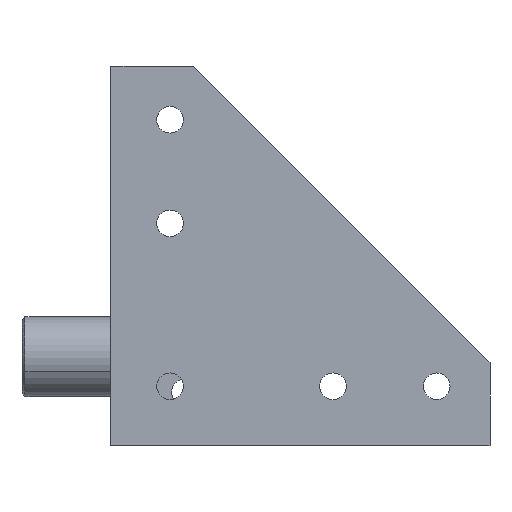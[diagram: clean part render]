
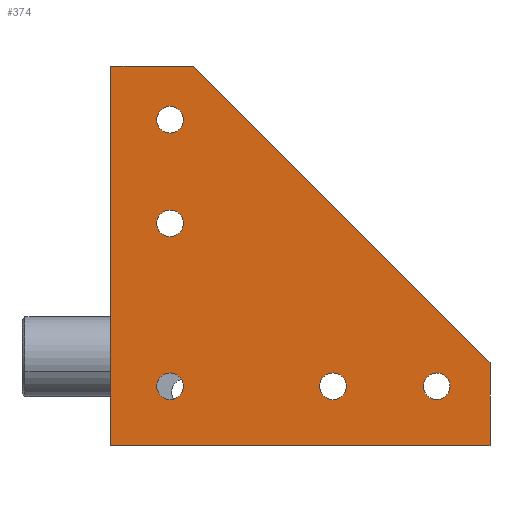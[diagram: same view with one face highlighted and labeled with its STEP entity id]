
A CAD part, front view. The second image highlights one B-rep face of the part: STEP entity #374.
In plain terms, the highlighted planar face has unit normal (0, -1, 0).
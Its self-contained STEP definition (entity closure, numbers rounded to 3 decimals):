
#14 = LINE ( 'NONE', #2659, #44 ) ;
#20 = EDGE_CURVE ( 'NONE', #58, #3057, #256, .T. ) ;
#27 = VERTEX_POINT ( 'NONE', #232 ) ;
#37 = DIRECTION ( 'NONE',  ( 1., 0., 0. ) ) ;
#38 = VERTEX_POINT ( 'NONE', #3198 ) ;
#44 = VECTOR ( 'NONE', #37, 1000. ) ;
#58 = VERTEX_POINT ( 'NONE', #525 ) ;
#165 = EDGE_LOOP ( 'NONE', ( #2107, #1984, #489, #1422, #3615 ) ) ;
#178 = DIRECTION ( 'NONE',  ( 0., 0., 1. ) ) ;
#232 = CARTESIAN_POINT ( 'NONE',  ( 28., 0., 3. ) ) ;
#256 = CIRCLE ( 'NONE', #2458, 4.5 ) ;
#269 = CARTESIAN_POINT ( 'NONE',  ( 20., 0., -100.5 ) ) ;
#274 = EDGE_CURVE ( 'NONE', #617, #27, #2464, .T. ) ;
#321 = EDGE_CURVE ( 'NONE', #2018, #3023, #1180, .T. ) ;
#324 = EDGE_LOOP ( 'NONE', ( #920, #2914 ) ) ;
#346 = CARTESIAN_POINT ( 'NONE',  ( 75., 0., -105. ) ) ;
#374 = ADVANCED_FACE ( 'NONE', ( #1014, #1896, #1608, #2875, #3784, #2829 ), #2810, .F. ) ;
#472 = CARTESIAN_POINT ( 'NONE',  ( 0., 0., -125. ) ) ;
#489 = ORIENTED_EDGE ( 'NONE', *, *, #1591, .T. ) ;
#525 = CARTESIAN_POINT ( 'NONE',  ( 20., 0., -109.5 ) ) ;
#536 = ORIENTED_EDGE ( 'NONE', *, *, #679, .T. ) ;
#537 = AXIS2_PLACEMENT_3D ( 'NONE', #1571, #1287, #2461 ) ;
#547 = CARTESIAN_POINT ( 'NONE',  ( 20., 0., -105. ) ) ;
#553 = DIRECTION ( 'NONE',  ( 0., 1., 0. ) ) ;
#577 = VERTEX_POINT ( 'NONE', #2370 ) ;
#617 = VERTEX_POINT ( 'NONE', #1892 ) ;
#646 = CARTESIAN_POINT ( 'NONE',  ( 110., 0., -109.5 ) ) ;
#679 = EDGE_CURVE ( 'NONE', #1706, #38, #1653, .T. ) ;
#695 = CARTESIAN_POINT ( 'NONE',  ( 20., 0., -50. ) ) ;
#714 = CIRCLE ( 'NONE', #1518, 4.5 ) ;
#715 = AXIS2_PLACEMENT_3D ( 'NONE', #346, #2354, #2392 ) ;
#747 = DIRECTION ( 'NONE',  ( 0., 1., 0. ) ) ;
#756 = EDGE_CURVE ( 'NONE', #3023, #2018, #2495, .T. ) ;
#777 = DIRECTION ( 'NONE',  ( 0., 0., 1. ) ) ;
#811 = AXIS2_PLACEMENT_3D ( 'NONE', #2145, #3071, #1628 ) ;
#835 = DIRECTION ( 'NONE',  ( 0., 0., -1. ) ) ;
#890 = ORIENTED_EDGE ( 'NONE', *, *, #1604, .T. ) ;
#913 = AXIS2_PLACEMENT_3D ( 'NONE', #2947, #747, #3141 ) ;
#920 = ORIENTED_EDGE ( 'NONE', *, *, #756, .T. ) ;
#928 = EDGE_LOOP ( 'NONE', ( #536, #2517 ) ) ;
#942 = CARTESIAN_POINT ( 'NONE',  ( 75., 0., -105. ) ) ;
#966 = CIRCLE ( 'NONE', #3246, 4.5 ) ;
#1014 = FACE_BOUND ( 'NONE', #3587, .T. ) ;
#1141 = DIRECTION ( 'NONE',  ( 0.707, 0., -0.707 ) ) ;
#1142 = EDGE_CURVE ( 'NONE', #1415, #2364, #3481, .T. ) ;
#1180 = CIRCLE ( 'NONE', #811, 4.5 ) ;
#1282 = CARTESIAN_POINT ( 'NONE',  ( 128., 0., -125. ) ) ;
#1287 = DIRECTION ( 'NONE',  ( 0., 1., 0. ) ) ;
#1316 = VECTOR ( 'NONE', #835, 1000. ) ;
#1415 = VERTEX_POINT ( 'NONE', #3447 ) ;
#1419 = DIRECTION ( 'NONE',  ( 0., 0., 1. ) ) ;
#1421 = DIRECTION ( 'NONE',  ( 0., 0., -1. ) ) ;
#1422 = ORIENTED_EDGE ( 'NONE', *, *, #1142, .F. ) ;
#1434 = DIRECTION ( 'NONE',  ( 0., 1., 0. ) ) ;
#1443 = VERTEX_POINT ( 'NONE', #1966 ) ;
#1493 = VECTOR ( 'NONE', #2180, 1000. ) ;
#1514 = CIRCLE ( 'NONE', #3538, 4.5 ) ;
#1518 = AXIS2_PLACEMENT_3D ( 'NONE', #1722, #553, #2886 ) ;
#1554 = CARTESIAN_POINT ( 'NONE',  ( 0., 0., 3. ) ) ;
#1571 = CARTESIAN_POINT ( 'NONE',  ( 20., 0., -15. ) ) ;
#1579 = VECTOR ( 'NONE', #1421, 1000. ) ;
#1591 = EDGE_CURVE ( 'NONE', #2360, #2364, #14, .T. ) ;
#1604 = EDGE_CURVE ( 'NONE', #577, #2792, #2540, .T. ) ;
#1608 = FACE_BOUND ( 'NONE', #324, .T. ) ;
#1628 = DIRECTION ( 'NONE',  ( 0., 0., 1. ) ) ;
#1653 = CIRCLE ( 'NONE', #3121, 4.5 ) ;
#1667 = ORIENTED_EDGE ( 'NONE', *, *, #2209, .T. ) ;
#1673 = DIRECTION ( 'NONE',  ( 0., 1., 0. ) ) ;
#1706 = VERTEX_POINT ( 'NONE', #3281 ) ;
#1722 = CARTESIAN_POINT ( 'NONE',  ( 20., 0., -50. ) ) ;
#1768 = DIRECTION ( 'NONE',  ( 0., 1., 0. ) ) ;
#1892 = CARTESIAN_POINT ( 'NONE',  ( 0., 0., 3. ) ) ;
#1896 = FACE_BOUND ( 'NONE', #3501, .T. ) ;
#1966 = CARTESIAN_POINT ( 'NONE',  ( 75., 0., -100.5 ) ) ;
#1967 = DIRECTION ( 'NONE',  ( 0., 0., 1. ) ) ;
#1981 = EDGE_CURVE ( 'NONE', #1443, #2854, #3419, .T. ) ;
#1984 = ORIENTED_EDGE ( 'NONE', *, *, #2190, .T. ) ;
#2018 = VERTEX_POINT ( 'NONE', #646 ) ;
#2062 = LINE ( 'NONE', #3777, #2310 ) ;
#2107 = ORIENTED_EDGE ( 'NONE', *, *, #274, .F. ) ;
#2135 = EDGE_LOOP ( 'NONE', ( #890, #3273 ) ) ;
#2139 = EDGE_CURVE ( 'NONE', #38, #1706, #3411, .T. ) ;
#2145 = CARTESIAN_POINT ( 'NONE',  ( 110., 0., -105. ) ) ;
#2180 = DIRECTION ( 'NONE',  ( 1., 0., 0. ) ) ;
#2190 = EDGE_CURVE ( 'NONE', #617, #2360, #2271, .T. ) ;
#2209 = EDGE_CURVE ( 'NONE', #3057, #58, #1514, .T. ) ;
#2271 = LINE ( 'NONE', #3145, #1316 ) ;
#2310 = VECTOR ( 'NONE', #1141, 1000. ) ;
#2354 = DIRECTION ( 'NONE',  ( 0., 1., 0. ) ) ;
#2360 = VERTEX_POINT ( 'NONE', #472 ) ;
#2364 = VERTEX_POINT ( 'NONE', #1282 ) ;
#2370 = CARTESIAN_POINT ( 'NONE',  ( 20., 0., -45.5 ) ) ;
#2392 = DIRECTION ( 'NONE',  ( 0., 0., 1. ) ) ;
#2422 = DIRECTION ( 'NONE',  ( 0., 0., 1. ) ) ;
#2458 = AXIS2_PLACEMENT_3D ( 'NONE', #547, #1673, #1419 ) ;
#2461 = DIRECTION ( 'NONE',  ( 0., 0., 1. ) ) ;
#2464 = LINE ( 'NONE', #1554, #1493 ) ;
#2495 = CIRCLE ( 'NONE', #913, 4.5 ) ;
#2496 = DIRECTION ( 'NONE',  ( 0., 1., 0. ) ) ;
#2513 = CARTESIAN_POINT ( 'NONE',  ( 20., 0., -15. ) ) ;
#2517 = ORIENTED_EDGE ( 'NONE', *, *, #2139, .T. ) ;
#2540 = CIRCLE ( 'NONE', #2612, 4.5 ) ;
#2578 = CARTESIAN_POINT ( 'NONE',  ( 20., 0., -105. ) ) ;
#2612 = AXIS2_PLACEMENT_3D ( 'NONE', #695, #3064, #2422 ) ;
#2646 = DIRECTION ( 'NONE',  ( 0., 0., 1. ) ) ;
#2659 = CARTESIAN_POINT ( 'NONE',  ( 0., 0., -125. ) ) ;
#2702 = ORIENTED_EDGE ( 'NONE', *, *, #20, .T. ) ;
#2775 = AXIS2_PLACEMENT_3D ( 'NONE', #3417, #1434, #777 ) ;
#2792 = VERTEX_POINT ( 'NONE', #3387 ) ;
#2810 = PLANE ( 'NONE',  #2775 ) ;
#2829 = FACE_OUTER_BOUND ( 'NONE', #165, .T. ) ;
#2854 = VERTEX_POINT ( 'NONE', #3261 ) ;
#2875 = FACE_BOUND ( 'NONE', #2135, .T. ) ;
#2882 = CARTESIAN_POINT ( 'NONE',  ( 128., 0., 0. ) ) ;
#2886 = DIRECTION ( 'NONE',  ( 0., 0., 1. ) ) ;
#2911 = ORIENTED_EDGE ( 'NONE', *, *, #3113, .T. ) ;
#2914 = ORIENTED_EDGE ( 'NONE', *, *, #321, .T. ) ;
#2947 = CARTESIAN_POINT ( 'NONE',  ( 110., 0., -105. ) ) ;
#3023 = VERTEX_POINT ( 'NONE', #3152 ) ;
#3057 = VERTEX_POINT ( 'NONE', #269 ) ;
#3064 = DIRECTION ( 'NONE',  ( 0., 1., 0. ) ) ;
#3071 = DIRECTION ( 'NONE',  ( 0., 1., 0. ) ) ;
#3113 = EDGE_CURVE ( 'NONE', #2854, #1443, #966, .T. ) ;
#3121 = AXIS2_PLACEMENT_3D ( 'NONE', #2513, #2496, #178 ) ;
#3141 = DIRECTION ( 'NONE',  ( 0., 0., 1. ) ) ;
#3145 = CARTESIAN_POINT ( 'NONE',  ( 0., 0., 0. ) ) ;
#3152 = CARTESIAN_POINT ( 'NONE',  ( 110., 0., -100.5 ) ) ;
#3198 = CARTESIAN_POINT ( 'NONE',  ( 20., 0., -19.5 ) ) ;
#3246 = AXIS2_PLACEMENT_3D ( 'NONE', #942, #1768, #2646 ) ;
#3261 = CARTESIAN_POINT ( 'NONE',  ( 75., 0., -109.5 ) ) ;
#3273 = ORIENTED_EDGE ( 'NONE', *, *, #3648, .T. ) ;
#3281 = CARTESIAN_POINT ( 'NONE',  ( 20., 0., -10.5 ) ) ;
#3387 = CARTESIAN_POINT ( 'NONE',  ( 20., 0., -54.5 ) ) ;
#3411 = CIRCLE ( 'NONE', #537, 4.5 ) ;
#3417 = CARTESIAN_POINT ( 'NONE',  ( 0., 0., 0. ) ) ;
#3419 = CIRCLE ( 'NONE', #715, 4.5 ) ;
#3447 = CARTESIAN_POINT ( 'NONE',  ( 128., 0., -97. ) ) ;
#3481 = LINE ( 'NONE', #2882, #1579 ) ;
#3501 = EDGE_LOOP ( 'NONE', ( #3612, #2911 ) ) ;
#3538 = AXIS2_PLACEMENT_3D ( 'NONE', #2578, #3780, #1967 ) ;
#3587 = EDGE_LOOP ( 'NONE', ( #1667, #2702 ) ) ;
#3612 = ORIENTED_EDGE ( 'NONE', *, *, #1981, .T. ) ;
#3615 = ORIENTED_EDGE ( 'NONE', *, *, #3692, .F. ) ;
#3648 = EDGE_CURVE ( 'NONE', #2792, #577, #714, .T. ) ;
#3692 = EDGE_CURVE ( 'NONE', #27, #1415, #2062, .T. ) ;
#3777 = CARTESIAN_POINT ( 'NONE',  ( 15.5, 0., 15.5 ) ) ;
#3780 = DIRECTION ( 'NONE',  ( 0., 1., 0. ) ) ;
#3784 = FACE_BOUND ( 'NONE', #928, .T. ) ;
